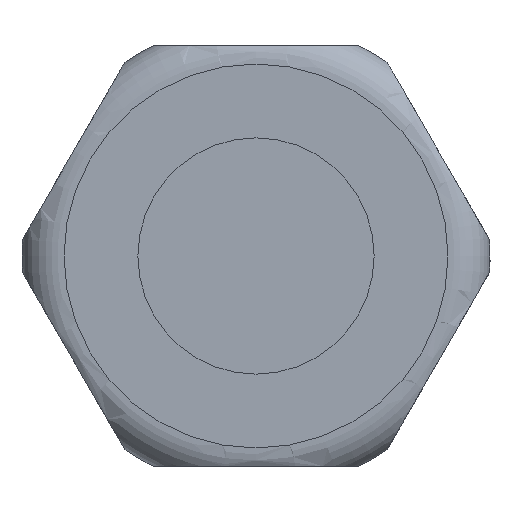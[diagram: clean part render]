
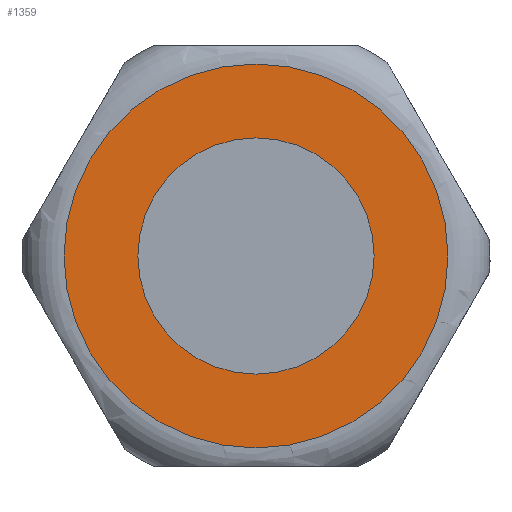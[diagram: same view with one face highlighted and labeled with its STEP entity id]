
A CAD part, left-side view. The second image highlights one B-rep face of the part: STEP entity #1359.
In plain terms, the highlighted planar face has unit normal (-1, 0, 0).
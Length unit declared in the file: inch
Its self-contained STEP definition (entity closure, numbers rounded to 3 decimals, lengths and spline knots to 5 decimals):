
#25=FACE_BOUND('',#206,.T.);
#102=PLANE('',#1483);
#131=FACE_OUTER_BOUND('',#205,.T.);
#205=EDGE_LOOP('',(#945,#946));
#206=EDGE_LOOP('',(#947,#948));
#389=CIRCLE('',#1439,0.31496);
#390=CIRCLE('',#1440,0.31496);
#416=CIRCLE('',#1484,0.51181);
#417=CIRCLE('',#1485,0.51181);
#501=VERTEX_POINT('',#2036);
#502=VERTEX_POINT('',#2037);
#541=VERTEX_POINT('',#2297);
#542=VERTEX_POINT('',#2298);
#641=EDGE_CURVE('',#501,#502,#389,.T.);
#642=EDGE_CURVE('',#502,#501,#390,.T.);
#698=EDGE_CURVE('',#541,#542,#416,.T.);
#699=EDGE_CURVE('',#542,#541,#417,.T.);
#945=ORIENTED_EDGE('',*,*,#698,.F.);
#946=ORIENTED_EDGE('',*,*,#699,.F.);
#947=ORIENTED_EDGE('',*,*,#641,.T.);
#948=ORIENTED_EDGE('',*,*,#642,.T.);
#1359=ADVANCED_FACE('',(#131,#25),#102,.T.);
#1439=AXIS2_PLACEMENT_3D('',#2038,#1620,#1621);
#1440=AXIS2_PLACEMENT_3D('',#2039,#1622,#1623);
#1483=AXIS2_PLACEMENT_3D('',#2296,#1724,#1725);
#1484=AXIS2_PLACEMENT_3D('',#2299,#1726,#1727);
#1485=AXIS2_PLACEMENT_3D('',#2300,#1728,#1729);
#1620=DIRECTION('center_axis',(1.,0.,0.));
#1621=DIRECTION('ref_axis',(0.,0.866,0.5));
#1622=DIRECTION('center_axis',(1.,0.,0.));
#1623=DIRECTION('ref_axis',(0.,0.866,0.5));
#1724=DIRECTION('center_axis',(-1.,0.,0.));
#1725=DIRECTION('ref_axis',(0.,0.866,0.5));
#1726=DIRECTION('center_axis',(1.,0.,0.));
#1727=DIRECTION('ref_axis',(0.,-0.866,-0.5));
#1728=DIRECTION('center_axis',(1.,0.,0.));
#1729=DIRECTION('ref_axis',(0.,-0.866,-0.5));
#2036=CARTESIAN_POINT('',(-2.39188,0.37407,-0.18686));
#2037=CARTESIAN_POINT('',(-2.39188,-0.17146,-0.50182));
#2038=CARTESIAN_POINT('Origin',(-2.39188,0.1013,-0.34434));
#2039=CARTESIAN_POINT('Origin',(-2.39188,0.1013,-0.34434));
#2296=CARTESIAN_POINT('Origin',(-2.39188,-0.34194,-0.60025));
#2297=CARTESIAN_POINT('',(-2.39188,-0.34194,-0.60025));
#2298=CARTESIAN_POINT('',(-2.39188,0.54454,-0.08844));
#2299=CARTESIAN_POINT('Origin',(-2.39188,0.1013,-0.34434));
#2300=CARTESIAN_POINT('Origin',(-2.39188,0.1013,-0.34434));
